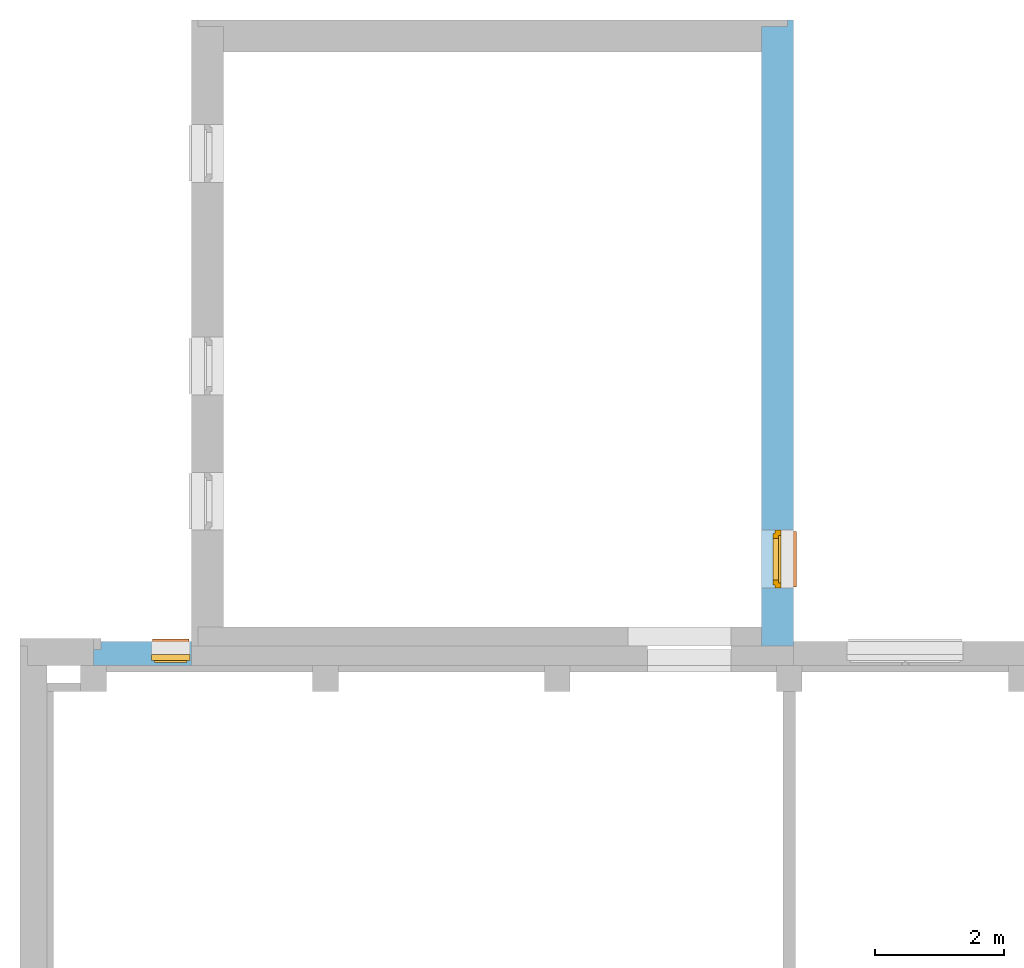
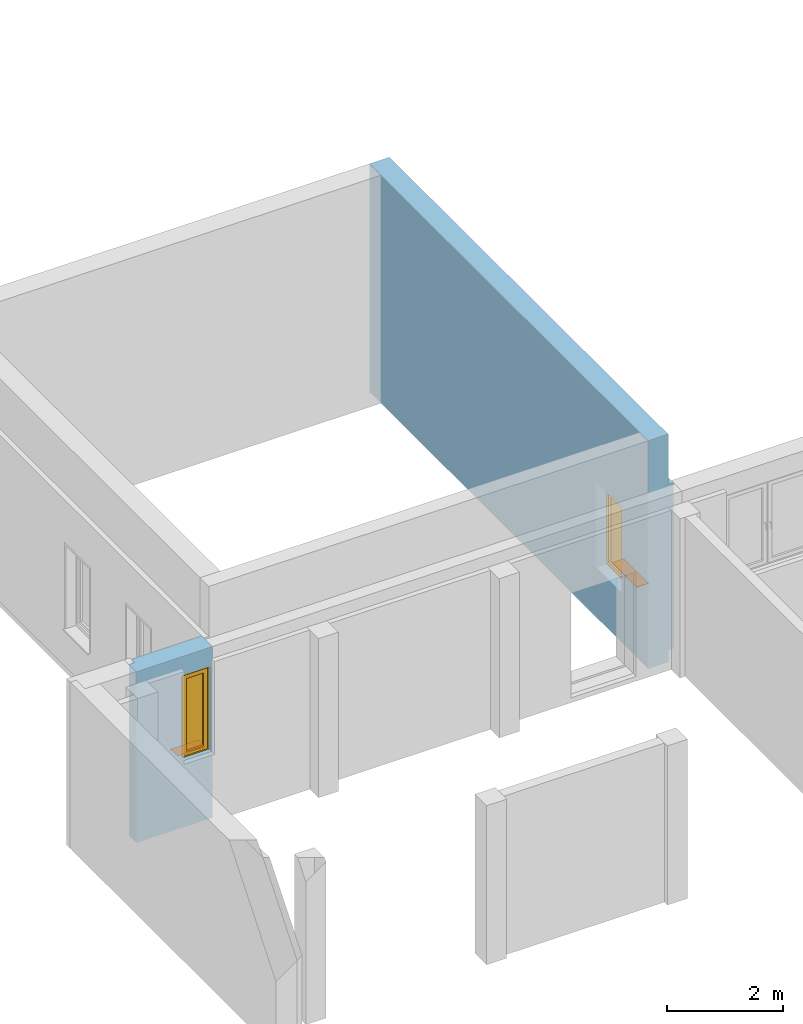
# One storey, part 27 of 37: 2 proxies, 2 windows, 2 openings, plus 2 elements that do not belong to this part.
"""IFC4 building model written with IfcOpenShell, lengths in metres."""

import ifcopenshell
import ifcopenshell.guid

model = None  # the IFC model being written
_history = None  # IfcOwnerHistory: only IFC2X3 demands one
_inside = {}  # id of a spatial element -> (the spatial element, [elements in it])
_under = {}  # id of a project, library or spatial element -> (it, [spatial elements below it])
_declared = {}  # id of a project -> (the project, [libraries it declares])
_typed = {}  # id of a type object -> (the type object, [elements of that type])
_made_of = {}  # id of a material, layer set ... -> (it, [elements and type objects made of it])


def new_model(schema):
    """Start an empty IFC model of exactly this schema.

    Asked for "IFC4X3", IfcOpenShell would pick the latest addendum, in which some entities
    have other attributes; the version numbers below select the first issue.
    IFC2X3 requires an IfcOwnerHistory on every rooted entity: one is made here for all.
    """
    global model, _history
    if schema == "IFC4X3":
        model = ifcopenshell.file(schema_version=(4, 3, 0, 0))
    else:
        model = ifcopenshell.file(schema=schema)
    _inside.clear()
    _under.clear()
    _declared.clear()
    _typed.clear()
    _made_of.clear()
    _history = None
    if model.schema == "IFC2X3":
        org = make("IfcOrganization", Name="unknown")
        user = make(
            "IfcPersonAndOrganization",
            ThePerson=make("IfcPerson", FamilyName="unknown"),
            TheOrganization=org,
        )
        app = make(
            "IfcApplication",
            ApplicationDeveloper=org,
            Version="unknown",
            ApplicationFullName="unknown",
            ApplicationIdentifier="unknown",
        )
        _history = make(
            "IfcOwnerHistory",
            OwningUser=user,
            OwningApplication=app,
            ChangeAction="ADDED",
            CreationDate=0,
        )
    return model


def make(cls, **values):
    """One entity of the class cls with the attributes given. An attribute that is None is left unset."""
    return model.create_entity(
        cls, **{name: value for name, value in values.items() if value is not None}
    )


def entity(cls, *values):
    """Any entity or typed value of the class cls, its attributes in the order of the schema. None: left unset."""
    e = model.create_entity(cls)
    for i, value in enumerate(values):
        if value is not None:
            e[i] = value
    return e


def rooted(cls, **values):
    """An entity with a GlobalId (a new one), such as an element, a storey or a relation."""
    return make(cls, GlobalId=ifcopenshell.guid.new(), OwnerHistory=_history, **values)


def si_unit(unit_type, name, prefix=None):
    """IfcSIUnit, for example si_unit("LENGTHUNIT", "METRE", prefix="MILLI")."""
    return make("IfcSIUnit", UnitType=unit_type, Prefix=prefix, Name=name)


def converted_unit(unit_type, name, factor, base, dimensions=None, offset=None):
    """IfcConversionBasedUnit, such as the inch: factor (a typed value) times the base unit."""
    return make(
        "IfcConversionBasedUnit"
        if offset is None
        else "IfcConversionBasedUnitWithOffset",
        ConversionOffset=offset,
        Dimensions=None
        if dimensions is None
        else entity("IfcDimensionalExponents", *dimensions),
        UnitType=unit_type,
        Name=name,
        ConversionFactor=make(
            "IfcMeasureWithUnit", ValueComponent=factor, UnitComponent=base
        ),
    )


def derived_unit(unit_type, elements):
    """IfcDerivedUnit: a product of units, each with its exponent."""
    return make(
        "IfcDerivedUnit",
        Elements=[
            make("IfcDerivedUnitElement", Unit=unit, Exponent=power)
            for unit, power in elements
        ],
        UnitType=unit_type,
    )


def assignment(units):
    """IfcUnitAssignment: the units of a project."""
    return None if units is None else make("IfcUnitAssignment", Units=units)


def point(xyz):
    """IfcCartesianPoint."""
    return None if xyz is None else make("IfcCartesianPoint", Coordinates=xyz)


def direction(xyz):
    """IfcDirection."""
    return None if xyz is None else make("IfcDirection", DirectionRatios=xyz)


def frame(location, z_axis=None, x_axis=None):
    """IfcAxis2Placement3D, a coordinate frame: its origin and axes. An axis left out is left unset."""
    return make(
        "IfcAxis2Placement3D",
        Location=point(location),
        Axis=direction(z_axis),
        RefDirection=direction(x_axis),
    )


def origin():
    """The frame at (0, 0, 0) with its axes left unset."""
    return frame((0.0, 0.0, 0.0))


def origin_with_axes():
    """The frame at (0, 0, 0) with the z axis (0, 0, 1) and the x axis (1, 0, 0) written out."""
    return frame((0.0, 0.0, 0.0), z_axis=(0.0, 0.0, 1.0), x_axis=(1.0, 0.0, 0.0))


def place(relative_to, where):
    """IfcLocalPlacement: puts the frame where relative to a parent placement (None: the world)."""
    return make(
        "IfcLocalPlacement", PlacementRelTo=relative_to, RelativePlacement=where
    )


def context(
    kind, dimensions, precision=None, world=None, true_north=None, identifier=None
):
    """IfcGeometricRepresentationContext, for example the 3D "Model" context."""
    return make(
        "IfcGeometricRepresentationContext",
        ContextIdentifier=identifier,
        ContextType=kind,
        CoordinateSpaceDimension=dimensions,
        Precision=precision,
        WorldCoordinateSystem=world,
        TrueNorth=true_north,
    )


def subcontext(parent, identifier, kind, view, scale=None):
    """IfcGeometricRepresentationSubContext, for example "Body" below "Model"."""
    return make(
        "IfcGeometricRepresentationSubContext",
        ContextIdentifier=identifier,
        ContextType=kind,
        ParentContext=parent,
        TargetScale=scale,
        TargetView=view,
    )


def project(units=None, contexts=None):
    """IfcProject with its units and contexts."""
    return rooted(
        "IfcProject",
        Name="project",
        RepresentationContexts=contexts,
        UnitsInContext=assignment(units),
    )


def spatial(cls, under=None, at=None, **own):
    """A site, building, storey or space (cls), placed at a placement, below another one or the project."""
    s = rooted(cls, ObjectPlacement=at, **own)
    if under is not None:
        _under.setdefault(under.id(), (under, []))[1].append(s)
    return s


def polyline(points):
    """IfcPolyline through the points."""
    return make("IfcPolyline", Points=[point(p) for p in points])


def outline(outer, holes=None, kind="AREA"):
    """IfcArbitraryClosedProfileDef: a profile drawn as a closed curve; with holes, ...WithVoids."""
    if holes is None:
        return make("IfcArbitraryClosedProfileDef", ProfileType=kind, OuterCurve=outer)
    return make(
        "IfcArbitraryProfileDefWithVoids",
        ProfileType=kind,
        OuterCurve=outer,
        InnerCurves=holes,
    )


def extrude(swept, where, along, depth):
    """IfcExtrudedAreaSolid: the profile swept, set in the frame where, extruded along a direction by depth."""
    return make(
        "IfcExtrudedAreaSolid",
        SweptArea=swept,
        Position=where,
        ExtrudedDirection=direction(along),
        Depth=depth,
    )


def clip(a, b, op="DIFFERENCE"):
    """IfcBooleanClippingResult: the solid a cut by the half space b."""
    return make(
        "IfcBooleanClippingResult", Operator=op, FirstOperand=a, SecondOperand=b
    )


def bounded_halfspace(plane, agree, where, boundary):
    """IfcPolygonalBoundedHalfSpace: a half space limited to a polygon's prism."""
    return make(
        "IfcPolygonalBoundedHalfSpace",
        BaseSurface=make("IfcPlane", Position=plane),
        AgreementFlag=agree,
        Position=where,
        PolygonalBoundary=boundary,
    )


def faces_of(points, faces, orient=None, outer=None):
    """IfcFace entities. A face is a list of loops; a loop is a list of indices into points, from 0.

    orient and outer hold one flag for each loop. By default every Orientation is true, the
    first loop of a face is its IfcFaceOuterBound and the others are IfcFaceBound.
    """
    made = []
    for i, loops in enumerate(faces):
        bounds = []
        for j, loop in enumerate(loops):
            is_outer = j == 0 if outer is None else outer[i][j]
            bounds.append(
                make(
                    "IfcFaceOuterBound" if is_outer else "IfcFaceBound",
                    Bound=make("IfcPolyLoop", Polygon=[points[k] for k in loop]),
                    Orientation=True if orient is None else orient[i][j],
                )
            )
        made.append(make("IfcFace", Bounds=bounds))
    return made


def closed_shell(faces, orient=None, outer=None):
    """The faces of one IfcClosedShell. faceted_brep and surface_model build it on their shared points."""
    return ("IfcClosedShell", faces, orient, outer)


def open_shell(faces, orient=None, outer=None):
    """The faces of one IfcOpenShell. surface_model builds it on its shared points."""
    return ("IfcOpenShell", faces, orient, outer)


def faceted_brep(points, faces, orient=None, outer=None, voids=None):
    """IfcFacetedBrep: a solid bounded by flat faces; with voids (closed shells), ...WithVoids."""
    shared = [point(p) for p in points]
    hull = make("IfcClosedShell", CfsFaces=faces_of(shared, faces, orient, outer))
    if voids is None:
        return make("IfcFacetedBrep", Outer=hull)
    return make(
        "IfcFacetedBrepWithVoids",
        Outer=hull,
        Voids=[
            make(cls, CfsFaces=faces_of(shared, fs, o, b)) for cls, fs, o, b in voids
        ],
    )


def surface_model(cls, points, shells):
    """IfcFaceBasedSurfaceModel or IfcShellBasedSurfaceModel (cls): surfaces that need not close."""
    shared = [point(p) for p in points]
    made = [make(c, CfsFaces=faces_of(shared, fs, o, b)) for c, fs, o, b in shells]
    if cls == "IfcFaceBasedSurfaceModel":
        return make(cls, FbsmFaces=made)
    return make(cls, SbsmBoundary=made)


def shape(context_of_items, identifier, shape_type, items):
    """IfcShapeRepresentation: the items that make up one representation, for example the "Body"."""
    return make(
        "IfcShapeRepresentation",
        ContextOfItems=context_of_items,
        RepresentationIdentifier=identifier,
        RepresentationType=shape_type,
        Items=items,
    )


def source(mapping_origin, context_of_items, identifier, shape_type, items):
    """IfcRepresentationMap: a shape defined once, which mapped items show again and again."""
    return make(
        "IfcRepresentationMap",
        MappingOrigin=mapping_origin,
        MappedRepresentation=shape(context_of_items, identifier, shape_type, items),
    )


def transform(
    local_origin,
    x_axis=None,
    y_axis=None,
    z_axis=None,
    scale=None,
    scale2=None,
    scale3=None,
    uniform=True,
):
    """IfcCartesianTransformationOperator3D, or its non-uniform kind. x_axis, y_axis, z_axis: its Axis1, 2, 3."""
    if uniform:
        return make(
            "IfcCartesianTransformationOperator3D",
            Axis1=direction(x_axis),
            Axis2=direction(y_axis),
            LocalOrigin=point(local_origin),
            Scale=scale,
            Axis3=direction(z_axis),
        )
    return make(
        "IfcCartesianTransformationOperator3DnonUniform",
        Axis1=direction(x_axis),
        Axis2=direction(y_axis),
        LocalOrigin=point(local_origin),
        Scale=scale,
        Axis3=direction(z_axis),
        Scale2=scale2,
        Scale3=scale3,
    )


def mapped(mapping_source, mapping_target):
    """IfcMappedItem: shows the shape of a source again, moved by a transform."""
    return make(
        "IfcMappedItem", MappingSource=mapping_source, MappingTarget=mapping_target
    )


def material(Name=None, Category=None):
    """IfcMaterial."""
    return make("IfcMaterial", Name=Name, Category=Category)


def layer(
    of_material, thickness, ventilated=None, Name=None, Category=None, Priority=None
):
    """IfcMaterialLayer: one layer of a wall or slab, of a material (None: an air gap)."""
    return make(
        "IfcMaterialLayer",
        Material=of_material,
        LayerThickness=thickness,
        IsVentilated=ventilated,
        Name=Name,
        Category=Category,
        Priority=Priority,
    )


def layer_set(layers, Name=None):
    """IfcMaterialLayerSet."""
    return make("IfcMaterialLayerSet", MaterialLayers=layers, LayerSetName=Name)


def layer_usage(for_layer_set, set_direction, sense, offset, extent=None):
    """IfcMaterialLayerSetUsage: how a layer set lies in its element."""
    return make(
        "IfcMaterialLayerSetUsage",
        ForLayerSet=for_layer_set,
        LayerSetDirection=set_direction,
        DirectionSense=sense,
        OffsetFromReferenceLine=offset,
        ReferenceExtent=extent,
    )


def made_of(thing, what):
    """Note that an element or type object is made of a material, layer set ...; save() writes the relation."""
    if what is not None:
        _made_of.setdefault(what.id(), (what, []))[1].append(thing)
    return thing


def element(
    cls,
    number,
    at=None,
    inside=None,
    cuts=None,
    type_object=None,
    material=None,
    context=None,
    identifier="Body",
    shape_type=None,
    held_by="IfcProductDefinitionShape",
    body=None,
    shapes=None,
    **own,
):
    """One element of the class cls, such as IfcWall. Its Tag is "e" and its number.

    at: its placement. inside: the storey or other place that contains it. cuts: it is an
    opening in that element (IfcRelVoidsElement). A single representation is given by context,
    identifier, shape_type and body (its items); several are given by shapes. held_by: the class
    of the entity that holds the representations. save() writes the other relations.
    """
    e = rooted(cls, Tag="e%d" % number, ObjectPlacement=at, **own)
    if body is not None:
        shapes = [shape(context, identifier, shape_type, body)]
    if shapes is not None:
        e.Representation = make(held_by, Representations=shapes)
    if inside is not None:
        _inside.setdefault(inside.id(), (inside, []))[1].append(e)
    if cuts is not None:
        rooted(
            "IfcRelVoidsElement", RelatingBuildingElement=cuts, RelatedOpeningElement=e
        )
    if type_object is not None:
        _typed.setdefault(type_object.id(), (type_object, []))[1].append(e)
    return made_of(e, material)


def fill(opening, filler):
    """IfcRelFillsElement: the door or window that sits in an opening."""
    return rooted(
        "IfcRelFillsElement",
        RelatingOpeningElement=opening,
        RelatedBuildingElement=filler,
    )


def aggregate(whole, parts):
    """IfcRelAggregates: a whole, such as a stair, and the parts it consists of."""
    return rooted("IfcRelAggregates", RelatingObject=whole, RelatedObjects=parts)


def save(model, path):
    """Write the relations noted so far, then the file.

    IfcRelAggregates (storeys below a building ...), IfcRelContainedInSpatialStructure (elements
    in a storey), IfcRelDefinesByType, IfcRelAssociatesMaterial and IfcRelDeclares: one each for
    every whole, place, type object, material and project.
    """
    for whole, parts in _under.values():
        aggregate(whole, parts)
    for where, things in _inside.values():
        rooted(
            "IfcRelContainedInSpatialStructure",
            RelatedElements=things,
            RelatingStructure=where,
        )
    for kind, things in _typed.values():
        rooted("IfcRelDefinesByType", RelatedObjects=things, RelatingType=kind)
    for what, things in _made_of.values():
        rooted("IfcRelAssociatesMaterial", RelatedObjects=things, RelatingMaterial=what)
    for by, libraries in _declared.values():
        rooted("IfcRelDeclares", RelatingContext=by, RelatedDefinitions=libraries)
    model.write(path)


model = new_model("IFC4")

# Units and contexts
model_context = context("Model", 3, precision=1e-05, world=origin())
body_context = subcontext(model_context, "Body", "Model", "MODEL_VIEW")
ifc_project = project(units=[si_unit("LENGTHUNIT", "METRE"), si_unit("AREAUNIT", "SQUARE_METRE"), si_unit("VOLUMEUNIT", "CUBIC_METRE"), si_unit("MASSUNIT", "GRAM", prefix="KILO"), converted_unit("PLANEANGLEUNIT", "DEGREE", entity("IfcPlaneAngleMeasure", 0.0174532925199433), si_unit("PLANEANGLEUNIT", "RADIAN"), dimensions=[0, 0, 0, 0, 0, 0, 0]), derived_unit("THERMALTRANSMITTANCEUNIT", [(si_unit("POWERUNIT", "WATT"), 1), (si_unit("THERMODYNAMICTEMPERATUREUNIT", "KELVIN"), -1), (si_unit("LENGTHUNIT", "METRE"), -2)]), derived_unit("VOLUMETRICFLOWRATEUNIT", [(si_unit("LENGTHUNIT", "METRE"), 3), (converted_unit("TIMEUNIT", "hour", entity("IfcTimeMeasure", 3600.0), si_unit("TIMEUNIT", "SECOND"), dimensions=[0, 0, 1, 0, 0, 0, 0]), -1), (si_unit("LENGTHUNIT", "METRE"), -1)])], contexts=[model_context])

# Site, building, storey
site_placement = place(None, origin())
site = spatial("IfcSite", under=ifc_project, at=site_placement, Name="3. ASŘ", CompositionType="ELEMENT")
building_placement = place(site_placement, origin())
building = spatial("IfcBuilding", under=site, at=building_placement, Name="Pavilon B", CompositionType="ELEMENT")
storey_placement = place(building_placement, origin())
storey = spatial("IfcBuildingStorey", under=building, at=storey_placement, Name="Půdorys 1.NP", CompositionType="ELEMENT", Elevation=0.0)

# Wall, opening, window, proxy
ifc_material_1 = material(Name="MINERÁLNÍ VATA")
ifc_layer_1 = layer(ifc_material_1, 0.1)
ifc_material_2 = material(Name="STÁVAJÍC KCE")
ifc_layer_2 = layer(ifc_material_2, 0.4)
ifc_layer_set_1 = layer_set([ifc_layer_1, ifc_layer_2])
ifc_layer_usage_1 = layer_usage(ifc_layer_set_1, "AXIS2", "POSITIVE", -0.1)
wall_1_placement = place(storey_placement, frame((6.67000000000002, -15.3, -0.25), z_axis=(0.0, 0.0, 1.0), x_axis=(0.0, 1.0, 0.0)))
wall_1 = element("IfcWall", 1, at=wall_1_placement, inside=storey, material=ifc_layer_usage_1, Name="STÁVAJÍCÍ KCE", context=body_context, shape_type="Clipping", body=[
    clip(clip(extrude(outline(polyline([(0.0, -0.5), (9.72, -0.5), (9.72, -0.4), (9.62, -0.4), (9.62, 0.0), (0.0, 0.0), (0.0, -0.5)])), frame((0.0, 0.5, 0.0), z_axis=(0.0, 0.0, 1.0), x_axis=(1.0, 0.0, 0.0)), (0.0, 0.0, 1.0), 4.8), bounded_halfspace(frame((5.812, 0.06, 0.25), z_axis=(0.0, 0.0, 1.0), x_axis=(-1.0, 0.0, 0.0)), True, origin_with_axes(), polyline([(9.62, 0.1), (0.0, 0.1), (0.0, 0.0), (9.72, 0.0), (9.72, 0.1), (9.62, 0.1)]))), bounded_halfspace(frame((5.812, 0.06, 3.75), z_axis=(0.0, 0.0, -1.0), x_axis=(1.0, 0.0, 0.0)), True, origin_with_axes(), polyline([(0.0, 0.0), (9.72, 0.0), (9.72, 0.1), (9.62, 0.1), (0.0, 0.1), (0.0, 0.0)]))),
])
opening_1_placement = place(wall_1_placement, frame((0.9, 0.0, 1.05), z_axis=(0.0, 1.0, 0.0), x_axis=(0.0, 0.0, 1.0)))
opening_1 = element("IfcOpeningElement", 2, at=opening_1_placement, cuts=wall_1, Name="Okenní otvor", ObjectType="Opening", context=body_context, shape_type="SweptSolid", body=[
    extrude(outline(polyline([(0.0, 0.9), (1.8, 0.9), (1.8, 0.0), (0.0, 0.0), (0.0, 0.9)])), origin_with_axes(), (0.0, 0.0, 1.0), 0.1),
    extrude(outline(polyline([(0.0, 0.9), (1.8, 0.9), (1.8, 0.0), (0.0, 0.0), (0.0, 0.9)])), frame((0.0, 0.0, 0.1), z_axis=(0.0, 0.0, 1.0), x_axis=(1.0, 0.0, 0.0)), (0.0, 0.0, 1.0), 0.4),
])
shared_shape_1 = source(origin_with_axes(), body_context, "Body", "SurfaceModel", [
    surface_model("IfcShellBasedSurfaceModel", [(0.0, 0.122, 1.8), (0.0, 0.122, -5.63337527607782e-18), (0.08, 0.122, -5.63337527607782e-18), (0.08, 0.122, 1.8), (0.0, 0.03, 5.63337527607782e-18), (0.0, 0.0300000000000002, 1.8), (0.08, 0.0300000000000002, 1.8), (0.08, 0.03, 5.63337527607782e-18)], [closed_shell([[[0, 1, 2, 3]], [[4, 5, 6, 7]], [[1, 0, 5, 4]], [[2, 1, 4, 7]], [[3, 2, 7, 6]], [[0, 3, 6, 5]]], orient=[[False], [False], [False], [False], [False], [False]])]),
    surface_model("IfcShellBasedSurfaceModel", [(0.82, 0.122, 1.8), (0.82, 0.122, -5.63337527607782e-18), (0.9, 0.122, -5.63337527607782e-18), (0.9, 0.122, 1.8), (0.82, 0.03, 5.63337527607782e-18), (0.82, 0.0300000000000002, 1.8), (0.9, 0.0300000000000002, 1.8), (0.9, 0.03, 5.63337527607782e-18)], [closed_shell([[[0, 1, 2, 3]], [[4, 5, 6, 7]], [[1, 0, 5, 4]], [[2, 1, 4, 7]], [[3, 2, 7, 6]], [[0, 3, 6, 5]]], orient=[[False], [False], [False], [False], [False], [False]])]),
    surface_model("IfcShellBasedSurfaceModel", [(0.08, 0.122, 0.08), (0.08, 0.122, -5.63337527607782e-18), (0.82, 0.122, -5.63337527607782e-18), (0.82, 0.122, 0.08), (0.08, 0.03, 5.63337527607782e-18), (0.08, 0.03, 0.08), (0.82, 0.03, 0.08), (0.82, 0.03, 5.63337527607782e-18)], [closed_shell([[[0, 1, 2, 3]], [[4, 5, 6, 7]], [[1, 0, 5, 4]], [[2, 1, 4, 7]], [[3, 2, 7, 6]], [[0, 3, 6, 5]]], orient=[[False], [False], [False], [False], [False], [False]])]),
    surface_model("IfcShellBasedSurfaceModel", [(0.08, 0.122, 1.8), (0.08, 0.122, 1.72), (0.82, 0.122, 1.72), (0.82, 0.122, 1.8), (0.08, 0.0300000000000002, 1.72), (0.08, 0.0300000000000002, 1.8), (0.82, 0.0300000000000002, 1.8), (0.82, 0.0300000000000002, 1.72)], [closed_shell([[[0, 1, 2, 3]], [[4, 5, 6, 7]], [[1, 0, 5, 4]], [[2, 1, 4, 7]], [[3, 2, 7, 6]], [[0, 3, 6, 5]]], orient=[[False], [False], [False], [False], [False], [False]])]),
    surface_model("IfcShellBasedSurfaceModel", [(0.05, 0.0850000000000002, 1.75), (0.05, 0.085, 0.05), (0.13, 0.085, 0.05), (0.13, 0.0850000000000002, 1.75), (0.05, 3.5527136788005e-18, 0.05), (0.05, 2.16715534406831e-16, 1.75), (0.13, 2.16715534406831e-16, 1.75), (0.13, 3.5527136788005e-18, 0.05)], [closed_shell([[[0, 1, 2, 3]], [[4, 5, 6, 7]], [[1, 0, 5, 4]], [[2, 1, 4, 7]], [[3, 2, 7, 6]], [[0, 3, 6, 5]]], orient=[[False], [False], [False], [False], [False], [False]])]),
    surface_model("IfcShellBasedSurfaceModel", [(0.77, 0.0850000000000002, 1.75), (0.77, 0.085, 0.05), (0.85, 0.085, 0.05), (0.85, 0.0850000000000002, 1.75), (0.77, 3.5527136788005e-18, 0.05), (0.77, 2.16715534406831e-16, 1.75), (0.85, 2.16715534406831e-16, 1.75), (0.85, 3.5527136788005e-18, 0.05)], [closed_shell([[[0, 1, 2, 3]], [[4, 5, 6, 7]], [[1, 0, 5, 4]], [[2, 1, 4, 7]], [[3, 2, 7, 6]], [[0, 3, 6, 5]]], orient=[[False], [False], [False], [False], [False], [False]])]),
    surface_model("IfcShellBasedSurfaceModel", [(0.13, 0.085, 0.13), (0.13, 0.085, 0.05), (0.77, 0.085, 0.05), (0.77, 0.085, 0.13), (0.13, 3.5527136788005e-18, 0.05), (0.13, 1.77635683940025e-17, 0.13), (0.77, 1.77635683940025e-17, 0.13), (0.77, 3.5527136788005e-18, 0.05)], [closed_shell([[[0, 1, 2, 3]], [[4, 5, 6, 7]], [[1, 0, 5, 4]], [[2, 1, 4, 7]], [[3, 2, 7, 6]], [[0, 3, 6, 5]]], orient=[[False], [False], [False], [False], [False], [False]])]),
    surface_model("IfcShellBasedSurfaceModel", [(0.13, 0.0850000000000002, 1.75), (0.13, 0.0850000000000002, 1.67), (0.77, 0.0850000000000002, 1.67), (0.77, 0.0850000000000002, 1.75), (0.13, 2.02504679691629e-16, 1.67), (0.13, 2.16715534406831e-16, 1.75), (0.77, 2.16715534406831e-16, 1.75), (0.77, 2.02504679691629e-16, 1.67)], [closed_shell([[[0, 1, 2, 3]], [[4, 5, 6, 7]], [[1, 0, 5, 4]], [[2, 1, 4, 7]], [[3, 2, 7, 6]], [[0, 3, 6, 5]]], orient=[[False], [False], [False], [False], [False], [False]])]),
    surface_model("IfcShellBasedSurfaceModel", [(0.13, 0.0425, 0.13), (0.77, 0.0425, 0.13), (0.77, 0.0425000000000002, 1.67), (0.13, 0.0425000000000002, 1.67)], [open_shell([[[0, 1, 2, 3]]], orient=[[False]])]),
])
window_1_placement = place(opening_1_placement, frame((0.0, 3.63797880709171e-15, 0.322000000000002), z_axis=(1.0, 0.0, 0.0), x_axis=(0.0, 1.0, -2.44929359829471e-16)))
window_1 = element("IfcWindow", 3, at=window_1_placement, inside=storey, Name="O06", OverallHeight=1.8, OverallWidth=0.9, PartitioningType="USERDEFINED", PredefinedType="WINDOW", context=body_context, shape_type="MappedRepresentation", body=[
    mapped(shared_shape_1, transform((0.0, 0.0, 0.0), x_axis=(1.0, 0.0, 0.0), y_axis=(0.0, -1.0, 0.0), z_axis=(0.0, 0.0, 1.0), scale=1.0)),
])
fill(opening_1, window_1)
ifc_material_3 = material(Name="PLECH")
shared_shape_2 = source(origin_with_axes(), body_context, "Body", "Brep", [
    faceted_brep([(0.860000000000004, 1.81898940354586e-15, 0.0), (0.860000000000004, 1.81898940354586e-15, 0.005), (0.860000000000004, 0.200000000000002, 0.005), (0.860000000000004, 0.200000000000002, 0.0), (0.0400000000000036, 1.81898940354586e-15, 0.0), (0.0400000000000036, 0.200000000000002, 0.0), (0.0400000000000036, 0.200000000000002, 0.005), (0.0400000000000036, 1.81898940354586e-15, 0.005), (0.0200000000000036, 1.81898940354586e-15, 0.0), (0.0200000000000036, -0.0349999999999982, 0.0), (0.880000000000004, -0.0349999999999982, 0.0), (0.880000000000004, 1.81898940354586e-15, 0.0), (0.880000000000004, 1.81898940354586e-15, 0.005), (0.880000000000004, -0.0399999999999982, 0.005), (0.0200000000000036, -0.0399999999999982, 0.005), (0.0200000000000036, 1.81898940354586e-15, 0.005), (0.880000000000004, -0.0349999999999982, -0.025), (0.880000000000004, -0.0399999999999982, -0.025), (0.0200000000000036, -0.0399999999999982, -0.025), (0.0200000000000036, -0.0349999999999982, -0.025)], [[[0, 1, 2, 3]], [[4, 5, 6, 7]], [[3, 5, 4, 8, 9, 10, 11, 0]], [[2, 6, 5, 3]], [[1, 12, 13, 14, 15, 7, 6, 2]], [[11, 10, 16, 17, 13, 12]], [[8, 15, 14, 18, 19, 9]], [[12, 1, 0, 11]], [[7, 15, 8, 4]], [[17, 18, 14, 13]], [[16, 19, 18, 17]], [[10, 9, 19, 16]]], orient=[[False], [False], [False], [False], [False], [False], [False], [False], [False], [False], [False], [False]]),
    faceted_brep([(0.880000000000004, 1.81898940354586e-15, 0.0), (0.880000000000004, 1.81898940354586e-15, 0.005), (0.880000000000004, 0.200000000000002, 0.005), (0.880000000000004, 0.200000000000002, 0.0), (0.860000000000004, 1.81898940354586e-15, 0.0), (0.860000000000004, 0.200000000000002, 0.0), (0.860000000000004, 0.200000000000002, 0.005), (0.860000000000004, 1.81898940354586e-15, 0.005)], [[[0, 1, 2, 3]], [[4, 5, 6, 7]], [[3, 5, 4, 0]], [[2, 6, 5, 3]], [[1, 7, 6, 2]], [[0, 4, 7, 1]]], orient=[[False], [False], [False], [False], [False], [False]]),
    faceted_brep([(0.0400000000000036, 1.81898940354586e-15, 0.0), (0.0400000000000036, 1.81898940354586e-15, 0.005), (0.0400000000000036, 0.200000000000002, 0.005), (0.0400000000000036, 0.200000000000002, 0.0), (0.0200000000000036, 1.81898940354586e-15, 0.0), (0.0200000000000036, 0.200000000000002, 0.0), (0.0200000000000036, 0.200000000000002, 0.005), (0.0200000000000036, 1.81898940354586e-15, 0.005)], [[[0, 1, 2, 3]], [[4, 5, 6, 7]], [[3, 5, 4, 0]], [[2, 6, 5, 3]], [[1, 7, 6, 2]], [[0, 4, 7, 1]]], orient=[[False], [False], [False], [False], [False], [False]]),
])
proxy_1_placement = place(opening_1_placement, frame((0.0, 0.0, 0.0), z_axis=(1.0, 0.0, 0.0), x_axis=(0.0, 1.0, 0.0)))
proxy_1 = element("IfcBuildingElementProxy", 4, at=proxy_1_placement, inside=storey, material=ifc_material_3, Name="Parapet vnější", context=body_context, shape_type="MappedRepresentation", body=[
    mapped(shared_shape_2, transform((0.0, 0.0, 0.0), x_axis=(1.0, 0.0, 0.0), y_axis=(0.0, 1.0, 0.0), z_axis=(0.0, 0.0, 1.0), scale=1.0)),
])
fill(opening_1, proxy_1)

ifc_material_4 = material(Name="ZELEZOBETONOVÁ KCE")
ifc_layer_3 = layer(ifc_material_4, 0.25)
ifc_material_5 = material(Name="MINERÁLNÍ VATA")
ifc_layer_4 = layer(ifc_material_5, 0.12)
ifc_layer_set_2 = layer_set([ifc_layer_3, ifc_layer_4])
ifc_layer_usage_2 = layer_usage(ifc_layer_set_2, "AXIS2", "POSITIVE", 0.0)
wall_2_placement = place(storey_placement, frame((-4.19999999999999, -15.6, -0.1)))
wall_2 = element("IfcWall", 5, at=wall_2_placement, inside=storey, material=ifc_layer_usage_2, Name="ZELEZOBETONOVÁ KCE", context=body_context, shape_type="Clipping", body=[
    clip(extrude(outline(polyline([(0.12, 0.37), (0.12, 0.25), (0.0, 0.25), (0.0, 0.0), (1.52, 0.0), (1.52, 0.37), (0.12, 0.37)])), origin_with_axes(), (0.0, 0.0, 1.0), 3.6), bounded_halfspace(frame((0.82, 0.31, 0.1), z_axis=(0.0, 0.0, 1.0), x_axis=(0.0, -1.0, 0.0)), True, origin_with_axes(), polyline([(0.12, 0.37), (0.12, 0.25), (1.52, 0.249999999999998), (1.52, 0.37), (0.12, 0.37)]))),
])
opening_2_placement = place(wall_2_placement, frame((1.5, 0.37, 1.4), z_axis=(0.0, -1.0, 0.0), x_axis=(0.0, 0.0, 1.0)))
opening_2 = element("IfcOpeningElement", 6, at=opening_2_placement, cuts=wall_2, Name="Okenní otvor", ObjectType="Opening", context=body_context, shape_type="SweptSolid", body=[
    extrude(outline(polyline([(0.0, 0.6), (1.8, 0.6), (1.8, 0.0), (0.0, 0.0), (0.0, 0.6)])), origin_with_axes(), (0.0, 0.0, 1.0), 0.12),
    extrude(outline(polyline([(0.0, 0.6), (1.8, 0.6), (1.8, 0.0), (0.0, 0.0), (0.0, 0.6)])), frame((0.0, 0.0, 0.12), z_axis=(0.0, 0.0, 1.0), x_axis=(1.0, 0.0, 0.0)), (0.0, 0.0, 1.0), 0.25),
])
shared_shape_3 = source(origin_with_axes(), body_context, "Body", "SurfaceModel", [
    surface_model("IfcShellBasedSurfaceModel", [(0.0, 0.122, 1.8), (0.0, 0.122, -5.63337527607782e-18), (0.08, 0.122, -5.63337527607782e-18), (0.08, 0.122, 1.8), (0.0, 0.03, 5.63337527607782e-18), (0.0, 0.0300000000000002, 1.8), (0.08, 0.0300000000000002, 1.8), (0.08, 0.03, 5.63337527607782e-18)], [closed_shell([[[0, 1, 2, 3]], [[4, 5, 6, 7]], [[1, 0, 5, 4]], [[2, 1, 4, 7]], [[3, 2, 7, 6]], [[0, 3, 6, 5]]], orient=[[False], [False], [False], [False], [False], [False]])]),
    surface_model("IfcShellBasedSurfaceModel", [(0.52, 0.122, 1.8), (0.52, 0.122, -5.63337527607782e-18), (0.6, 0.122, -5.63337527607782e-18), (0.6, 0.122, 1.8), (0.52, 0.03, 5.63337527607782e-18), (0.52, 0.0300000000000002, 1.8), (0.6, 0.0300000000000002, 1.8), (0.6, 0.03, 5.63337527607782e-18)], [closed_shell([[[0, 1, 2, 3]], [[4, 5, 6, 7]], [[1, 0, 5, 4]], [[2, 1, 4, 7]], [[3, 2, 7, 6]], [[0, 3, 6, 5]]], orient=[[False], [False], [False], [False], [False], [False]])]),
    surface_model("IfcShellBasedSurfaceModel", [(0.08, 0.122, 0.08), (0.08, 0.122, -5.63337527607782e-18), (0.52, 0.122, -5.63337527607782e-18), (0.52, 0.122, 0.08), (0.08, 0.03, 5.63337527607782e-18), (0.08, 0.03, 0.08), (0.52, 0.03, 0.08), (0.52, 0.03, 5.63337527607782e-18)], [closed_shell([[[0, 1, 2, 3]], [[4, 5, 6, 7]], [[1, 0, 5, 4]], [[2, 1, 4, 7]], [[3, 2, 7, 6]], [[0, 3, 6, 5]]], orient=[[False], [False], [False], [False], [False], [False]])]),
    surface_model("IfcShellBasedSurfaceModel", [(0.08, 0.122, 1.8), (0.08, 0.122, 1.72), (0.52, 0.122, 1.72), (0.52, 0.122, 1.8), (0.08, 0.0300000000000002, 1.72), (0.08, 0.0300000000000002, 1.8), (0.52, 0.0300000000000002, 1.8), (0.52, 0.0300000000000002, 1.72)], [closed_shell([[[0, 1, 2, 3]], [[4, 5, 6, 7]], [[1, 0, 5, 4]], [[2, 1, 4, 7]], [[3, 2, 7, 6]], [[0, 3, 6, 5]]], orient=[[False], [False], [False], [False], [False], [False]])]),
    surface_model("IfcShellBasedSurfaceModel", [(0.05, 0.0850000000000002, 1.75), (0.05, 0.085, 0.05), (0.13, 0.085, 0.05), (0.13, 0.0850000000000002, 1.75), (0.05, 3.5527136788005e-18, 0.05), (0.05, 2.16715534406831e-16, 1.75), (0.13, 2.16715534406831e-16, 1.75), (0.13, 3.5527136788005e-18, 0.05)], [closed_shell([[[0, 1, 2, 3]], [[4, 5, 6, 7]], [[1, 0, 5, 4]], [[2, 1, 4, 7]], [[3, 2, 7, 6]], [[0, 3, 6, 5]]], orient=[[False], [False], [False], [False], [False], [False]])]),
    surface_model("IfcShellBasedSurfaceModel", [(0.47, 0.0850000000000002, 1.75), (0.47, 0.085, 0.05), (0.55, 0.085, 0.05), (0.55, 0.0850000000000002, 1.75), (0.47, 3.5527136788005e-18, 0.05), (0.47, 2.16715534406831e-16, 1.75), (0.55, 2.16715534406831e-16, 1.75), (0.55, 3.5527136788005e-18, 0.05)], [closed_shell([[[0, 1, 2, 3]], [[4, 5, 6, 7]], [[1, 0, 5, 4]], [[2, 1, 4, 7]], [[3, 2, 7, 6]], [[0, 3, 6, 5]]], orient=[[False], [False], [False], [False], [False], [False]])]),
    surface_model("IfcShellBasedSurfaceModel", [(0.13, 0.085, 0.13), (0.13, 0.085, 0.05), (0.47, 0.085, 0.05), (0.47, 0.085, 0.13), (0.13, 3.5527136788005e-18, 0.05), (0.13, 1.77635683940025e-17, 0.13), (0.47, 1.77635683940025e-17, 0.13), (0.47, 3.5527136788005e-18, 0.05)], [closed_shell([[[0, 1, 2, 3]], [[4, 5, 6, 7]], [[1, 0, 5, 4]], [[2, 1, 4, 7]], [[3, 2, 7, 6]], [[0, 3, 6, 5]]], orient=[[False], [False], [False], [False], [False], [False]])]),
    surface_model("IfcShellBasedSurfaceModel", [(0.13, 0.0850000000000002, 1.75), (0.13, 0.0850000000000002, 1.67), (0.47, 0.0850000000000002, 1.67), (0.47, 0.0850000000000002, 1.75), (0.13, 2.02504679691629e-16, 1.67), (0.13, 2.16715534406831e-16, 1.75), (0.47, 2.16715534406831e-16, 1.75), (0.47, 2.02504679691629e-16, 1.67)], [closed_shell([[[0, 1, 2, 3]], [[4, 5, 6, 7]], [[1, 0, 5, 4]], [[2, 1, 4, 7]], [[3, 2, 7, 6]], [[0, 3, 6, 5]]], orient=[[False], [False], [False], [False], [False], [False]])]),
    surface_model("IfcShellBasedSurfaceModel", [(0.13, 0.0425, 0.13), (0.47, 0.0425, 0.13), (0.47, 0.0425000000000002, 1.67), (0.13, 0.0425000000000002, 1.67)], [open_shell([[[0, 1, 2, 3]]], orient=[[False]])]),
])
window_2_placement = place(opening_2_placement, frame((0.0, 0.6, 0.322), z_axis=(1.0, 0.0, 0.0), x_axis=(0.0, -1.0, 2.44929359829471e-16)))
window_2 = element("IfcWindow", 7, at=window_2_placement, inside=storey, Name="O06", OverallHeight=1.8, OverallWidth=0.6, PartitioningType="USERDEFINED", PredefinedType="WINDOW", context=body_context, shape_type="MappedRepresentation", body=[
    mapped(shared_shape_3, transform((0.0, 0.0, 0.0), x_axis=(1.0, 0.0, 0.0), y_axis=(0.0, 1.0, 0.0), z_axis=(0.0, 0.0, 1.0), scale=1.0)),
])
fill(opening_2, window_2)
ifc_material_6 = material(Name="PLECH")
shared_shape_4 = source(origin_with_axes(), body_context, "Body", "Brep", [
    faceted_brep([(0.04, 0.0, 0.0), (0.04, 0.2, 0.0), (0.04, 0.2, 0.005), (0.04, 0.0, 0.005), (0.56, 0.0, 0.0), (0.56, 0.0, 0.005), (0.56, 0.2, 0.005), (0.56, 0.2, 0.0), (0.02, 0.0, 0.0), (0.02, -0.035, 0.0), (0.58, -0.035, 0.0), (0.58, 0.0, 0.0), (0.58, 0.0, 0.005), (0.58, -0.04, 0.005), (0.02, -0.04, 0.005), (0.02, 0.0, 0.005), (0.02, -0.04, -0.025), (0.02, -0.035, -0.025), (0.58, -0.035, -0.025), (0.58, -0.04, -0.025)], [[[0, 1, 2, 3]], [[4, 5, 6, 7]], [[1, 0, 8, 9, 10, 11, 4, 7]], [[2, 1, 7, 6]], [[3, 2, 6, 5, 12, 13, 14, 15]], [[8, 15, 14, 16, 17, 9]], [[11, 10, 18, 19, 13, 12]], [[15, 8, 0, 3]], [[5, 4, 11, 12]], [[16, 14, 13, 19]], [[17, 16, 19, 18]], [[9, 17, 18, 10]]], orient=[[False], [False], [False], [False], [False], [False], [False], [False], [False], [False], [False], [False]]),
    faceted_brep([(0.02, 0.0, 0.0), (0.02, 0.2, 0.0), (0.02, 0.2, 0.005), (0.02, 0.0, 0.005), (0.04, 0.0, 0.0), (0.04, 0.0, 0.005), (0.04, 0.2, 0.005), (0.04, 0.2, 0.0)], [[[0, 1, 2, 3]], [[4, 5, 6, 7]], [[1, 0, 4, 7]], [[2, 1, 7, 6]], [[3, 2, 6, 5]], [[0, 3, 5, 4]]], orient=[[False], [False], [False], [False], [False], [False]]),
    faceted_brep([(0.56, 0.0, 0.0), (0.56, 0.2, 0.0), (0.56, 0.2, 0.005), (0.56, 0.0, 0.005), (0.58, 0.0, 0.0), (0.58, 0.0, 0.005), (0.58, 0.2, 0.005), (0.58, 0.2, 0.0)], [[[0, 1, 2, 3]], [[4, 5, 6, 7]], [[1, 0, 4, 7]], [[2, 1, 7, 6]], [[3, 2, 6, 5]], [[0, 3, 5, 4]]], orient=[[False], [False], [False], [False], [False], [False]]),
])
proxy_2_placement = place(opening_2_placement, frame((0.0, 0.0, 0.0), z_axis=(1.0, 0.0, 0.0), x_axis=(0.0, 1.0, 0.0)))
proxy_2 = element("IfcBuildingElementProxy", 8, at=proxy_2_placement, inside=storey, material=ifc_material_6, Name="Parapet vnější", context=body_context, shape_type="MappedRepresentation", body=[
    mapped(shared_shape_4, transform((0.0, 0.0, 0.0), x_axis=(1.0, 0.0, 0.0), y_axis=(0.0, 1.0, 0.0), z_axis=(0.0, 0.0, 1.0), scale=1.0)),
])
fill(opening_2, proxy_2)

save(model, "model.ifc")
